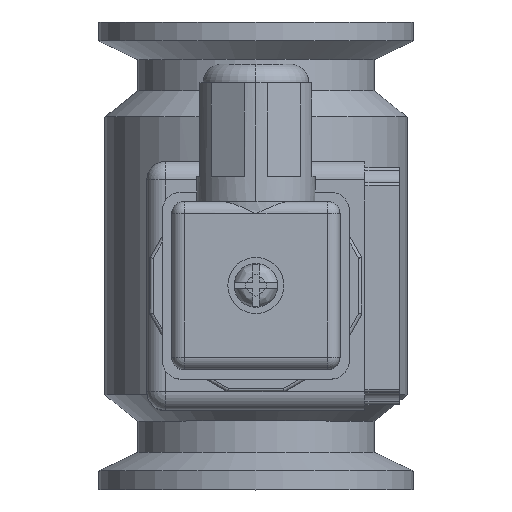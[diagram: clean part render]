
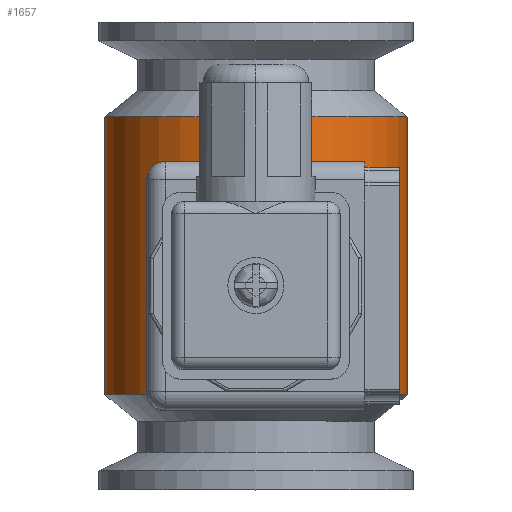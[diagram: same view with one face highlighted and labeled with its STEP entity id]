
A CAD part, top view. The second image highlights one B-rep face of the part: STEP entity #1657.
In plain terms, the highlighted cylindrical face has radius 24.25 mm (diameter 48.5 mm), a full revolution.
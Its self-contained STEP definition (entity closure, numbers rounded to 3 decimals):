
#344=FACE_BOUND('',#2899,.T.);
#345=FACE_BOUND('',#2900,.T.);
#346=FACE_BOUND('',#2901,.T.);
#1114=B_SPLINE_CURVE_WITH_KNOTS('',3,(#19662,#19663,#19664,#19665,#19666,
#19667,#19668,#19669,#19670,#19671),.UNSPECIFIED.,.F.,.F.,(4,2,2,2,4),(0.,
0.25,0.5,0.75,1.),.UNSPECIFIED.);
#1115=B_SPLINE_CURVE_WITH_KNOTS('',3,(#19673,#19674,#19675,#19676,#19677,
#19678,#19679,#19680,#19681,#19682),.UNSPECIFIED.,.F.,.F.,(4,2,2,2,4),(0.,
0.25,0.5,0.75,1.),.UNSPECIFIED.);
#1657=ADVANCED_FACE('',(#344,#345,#346),#1830,.T.);
#1830=CYLINDRICAL_SURFACE('',#10486,24.25);
#2899=EDGE_LOOP('',(#7049,#7050,#7051,#7052));
#2900=EDGE_LOOP('',(#7053));
#2901=EDGE_LOOP('',(#7054));
#3622=LINE('',#19656,#4395);
#3623=LINE('',#19660,#4396);
#4395=VECTOR('',#12697,1.);
#4396=VECTOR('',#12700,1.);
#7049=ORIENTED_EDGE('',*,*,#9423,.T.);
#7050=ORIENTED_EDGE('',*,*,#9422,.F.);
#7051=ORIENTED_EDGE('',*,*,#9424,.T.);
#7052=ORIENTED_EDGE('',*,*,#9420,.F.);
#7053=ORIENTED_EDGE('',*,*,#9425,.T.);
#7054=ORIENTED_EDGE('',*,*,#9426,.T.);
#8048=VERTEX_POINT('',#19654);
#8049=VERTEX_POINT('',#19655);
#8050=VERTEX_POINT('',#19657);
#8051=VERTEX_POINT('',#19659);
#8052=VERTEX_POINT('',#19684);
#8053=VERTEX_POINT('',#19686);
#9420=EDGE_CURVE('',#8048,#8050,#3622,.T.);
#9422=EDGE_CURVE('',#8051,#8049,#3623,.T.);
#9423=EDGE_CURVE('',#8048,#8049,#1114,.T.);
#9424=EDGE_CURVE('',#8051,#8050,#1115,.T.);
#9425=EDGE_CURVE('',#8052,#8052,#9763,.T.);
#9426=EDGE_CURVE('',#8053,#8053,#9764,.T.);
#9763=CIRCLE('',#10484,24.25);
#9764=CIRCLE('',#10485,24.25);
#10484=AXIS2_PLACEMENT_3D('',#19683,#12705,#12706);
#10485=AXIS2_PLACEMENT_3D('',#19685,#12707,#12708);
#10486=AXIS2_PLACEMENT_3D('',#19687,#12709,#12710);
#12697=DIRECTION('',(0.,1.,0.));
#12700=DIRECTION('',(0.,-1.,0.));
#12705=DIRECTION('',(0.,1.,0.));
#12706=DIRECTION('',(-1.,0.,0.));
#12707=DIRECTION('',(0.,-1.,0.));
#12708=DIRECTION('',(1.,0.,0.));
#12709=DIRECTION('',(0.,1.,0.));
#12710=DIRECTION('',(1.,0.,0.));
#19654=CARTESIAN_POINT('',(34.561,26.557,-94.));
#19655=CARTESIAN_POINT('',(16.471,26.528,-94.));
#19656=CARTESIAN_POINT('',(34.561,-15.1,-94.));
#19657=CARTESIAN_POINT('',(34.561,46.243,-94.));
#19659=CARTESIAN_POINT('',(16.471,46.272,-94.));
#19660=CARTESIAN_POINT('',(16.471,46.272,-94.));
#19662=CARTESIAN_POINT('',(34.561,26.557,-94.));
#19663=CARTESIAN_POINT('',(33.541,25.061,-93.59));
#19664=CARTESIAN_POINT('',(32.256,23.756,-93.153));
#19665=CARTESIAN_POINT('',(29.186,21.854,-92.478));
#19666=CARTESIAN_POINT('',(27.389,21.276,-92.251));
#19667=CARTESIAN_POINT('',(23.665,21.267,-92.249));
#19668=CARTESIAN_POINT('',(21.856,21.839,-92.475));
#19669=CARTESIAN_POINT('',(18.76,23.749,-93.156));
#19670=CARTESIAN_POINT('',(17.494,25.035,-93.589));
#19671=CARTESIAN_POINT('',(16.471,26.528,-94.));
#19673=CARTESIAN_POINT('',(16.471,46.272,-94.));
#19674=CARTESIAN_POINT('',(17.494,47.765,-93.589));
#19675=CARTESIAN_POINT('',(18.782,49.067,-93.151));
#19676=CARTESIAN_POINT('',(21.858,50.96,-92.476));
#19677=CARTESIAN_POINT('',(23.657,51.531,-92.25));
#19678=CARTESIAN_POINT('',(27.382,51.526,-92.25));
#19679=CARTESIAN_POINT('',(29.188,50.948,-92.477));
#19680=CARTESIAN_POINT('',(32.278,49.028,-93.158));
#19681=CARTESIAN_POINT('',(33.541,47.739,-93.59));
#19682=CARTESIAN_POINT('',(34.561,46.243,-94.));
#19683=CARTESIAN_POINT('',(25.516,19.1,-116.5));
#19684=CARTESIAN_POINT('',(1.266,19.1,-116.5));
#19685=CARTESIAN_POINT('',(25.516,63.7,-116.5));
#19686=CARTESIAN_POINT('',(49.766,63.7,-116.5));
#19687=CARTESIAN_POINT('',(25.516,-15.1,-116.5));
